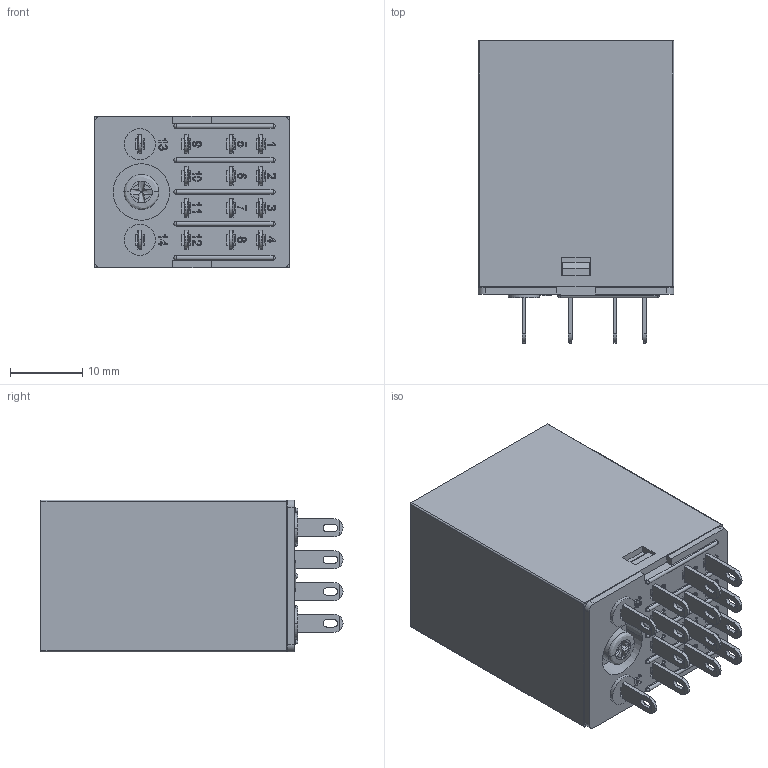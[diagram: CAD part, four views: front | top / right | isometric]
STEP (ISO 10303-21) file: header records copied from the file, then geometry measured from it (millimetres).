
FILE_DESCRIPTION (( 'STEP AP203' ), '1' );
FILE_NAME ('KE4C 俋倛.STEP', '2023-05-13T05:14:46', ( '' ), ( '' ), 'SwSTEP 2.0', 'SolidWorks 2018', '' );
FILE_SCHEMA (( 'CONFIG_CONTROL_DESIGN' ));
Products named in the file (1): KE4C 俋倛
Bounding box: 27 x 41.75 x 21 mm (x, y, z)
Volume: 19708.4 mm3; surface area: 5500.8 mm2
Topology: 1 solids, 1 shells, 876 faces, 2409 edges, 1582 vertices
Faces by surface type: plane 629, bspline 130, cylinder 103, sphere 10, torus 4
Entity records: 34429 total; most frequent: CARTESIAN_POINT 12918, ORIENTED_EDGE 4778, DIRECTION 3791, EDGE_CURVE 2389, LINE 1831, VECTOR 1831, VERTEX_POINT 1572, EDGE_LOOP 991
